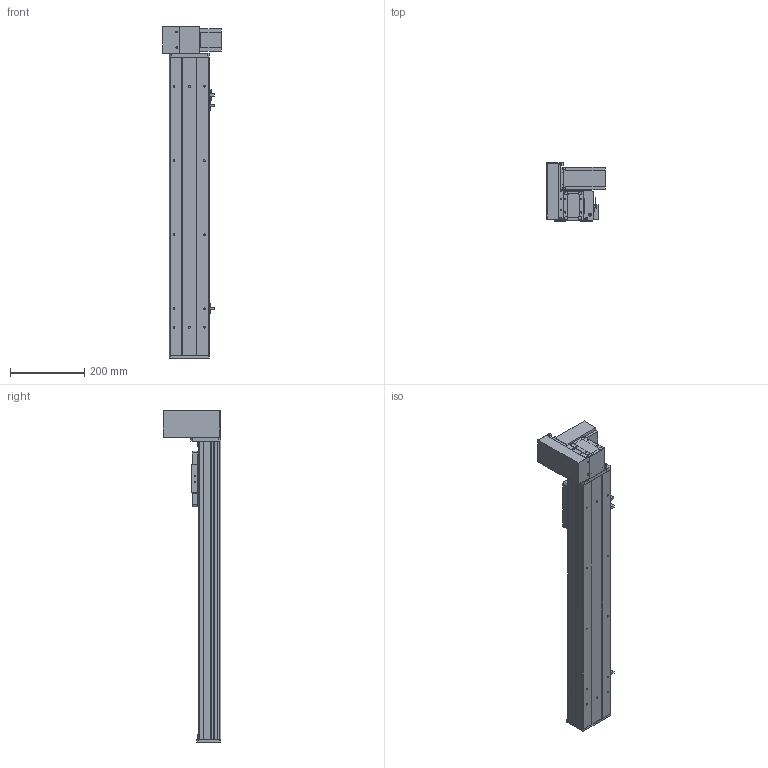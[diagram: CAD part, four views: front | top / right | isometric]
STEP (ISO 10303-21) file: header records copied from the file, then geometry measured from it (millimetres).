
FILE_DESCRIPTION (( 'STEP AP203' ), '1' );
FILE_NAME ('Y10CB-D90-S550-UL-P400W.STEP', '2020-02-16T07:09:50', ( '微软用户' ), ( '微软中国' ), 'SwSTEP 2.0', 'SolidWorks 2017', '' );
FILE_SCHEMA (( 'CONFIG_CONTROL_DESIGN' ));
Length unit declared in the file: millimetre
Products named in the file (18): Y135C-陔俋离換覜結え-; san松下电机400不带刹车----; Y100-135俋离換覜ん--; 0B-源倛裔啣; Y10B-耜蚾蟀諉啣----; 0B-埴倛裔啣; 00B-俋欶BM--; 10CB-詩湍-; Y10B--々湍喘謫眊--666; Y10CB- 掛极耜裔啣-毀---; 0CB-雄赽釱---; Y10CB-D90-S550-UL-P400W; Y10C---詩湍揤啣; 0Cb-俋欶---; 10CB9-掛极; Y10B-々湍喘謫眊楊擘啣--; 10CB-耜裔; 0B-萇儂楊擘啣
Assembly tree (21 placements, depth 2):
  Y10CB-D90-S550-UL-P400W
    0CB-雄赽釱---
    0Cb-俋欶---
    Y10B-々湍喘謫眊楊擘啣--
    0B-萇儂楊擘啣
    san松下电机400不带刹车----
    0B-源倛裔啣
    0B-埴倛裔啣
    10CB-詩湍-
    Y10CB- 掛极耜裔啣-毀---  x2
    Y10C---詩湍揤啣  x2
    10CB9-掛极
    10CB-耜裔
    Y135C-陔俋离換覜結え-
    Y100-135俋离換覜ん--  x3
    Y10B-耜蚾蟀諉啣----
    00B-俋欶BM--
    Y10B--々湍喘謫眊--666
Bounding box: 157 x 155.5 x 896 mm (x, y, z)
Volume: 2350534.7 mm3; surface area: 1015462.2 mm2
Topology: 21 solids, 21 shells, 966 faces, 2563 edges, 1682 vertices
Faces by surface type: plane 473, cylinder 469, cone 24
Entity records: 29912 total; most frequent: CARTESIAN_POINT 5173, DIRECTION 4862, ORIENTED_EDGE 4596, EDGE_CURVE 2298, AXIS2_PLACEMENT_3D 1741, VERTEX_POINT 1508, LINE 1380, VECTOR 1380
